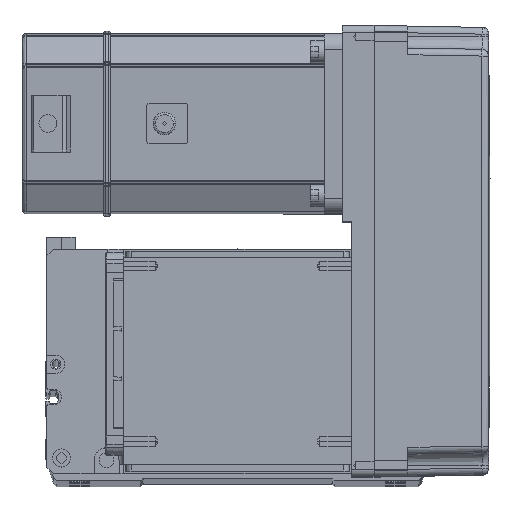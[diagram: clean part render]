
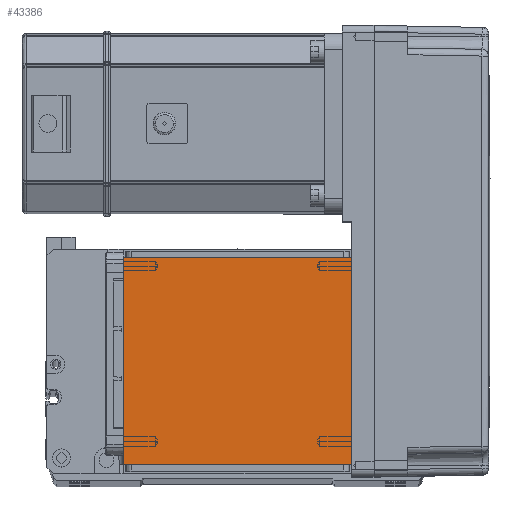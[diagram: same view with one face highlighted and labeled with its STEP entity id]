
A CAD part, top view. The second image highlights one B-rep face of the part: STEP entity #43386.
In plain terms, the highlighted planar face has unit normal (0, 0, 1).
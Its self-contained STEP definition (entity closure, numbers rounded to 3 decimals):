
#1407 = LINE ( 'NONE', #17346, #49479 ) ;
#3900 = VECTOR ( 'NONE', #59521, 1000. ) ;
#5833 = CARTESIAN_POINT ( 'NONE',  ( 50.5, 122., 115. ) ) ;
#7204 = CARTESIAN_POINT ( 'NONE',  ( -70.004, 111.5, 115. ) ) ;
#7520 = AXIS2_PLACEMENT_3D ( 'NONE', #58973, #35153, #25771 ) ;
#7862 = PLANE ( 'NONE',  #7520 ) ;
#10209 = ORIENTED_EDGE ( 'NONE', *, *, #46955, .T. ) ;
#11987 = LINE ( 'NONE', #25721, #41909 ) ;
#12341 = CARTESIAN_POINT ( 'NONE',  ( 50.5, 111.5, 115. ) ) ;
#12814 = CARTESIAN_POINT ( 'NONE',  ( -50.5, 20., 115. ) ) ;
#14434 = VERTEX_POINT ( 'NONE', #12341 ) ;
#14782 = CARTESIAN_POINT ( 'NONE',  ( 50.5, 20., 115. ) ) ;
#14920 = VERTEX_POINT ( 'NONE', #59060 ) ;
#17346 = CARTESIAN_POINT ( 'NONE',  ( -70.004, 20., 115. ) ) ;
#17726 = EDGE_CURVE ( 'NONE', #14920, #14434, #38847, .T. ) ;
#19650 = DIRECTION ( 'NONE',  ( 0., 1., 0. ) ) ;
#21086 = VECTOR ( 'NONE', #19650, 1000. ) ;
#21928 = VERTEX_POINT ( 'NONE', #14782 ) ;
#22002 = DIRECTION ( 'NONE',  ( -1., 0., 0. ) ) ;
#24715 = LINE ( 'NONE', #5833, #21086 ) ;
#25721 = CARTESIAN_POINT ( 'NONE',  ( -50.5, 122., 115. ) ) ;
#25771 = DIRECTION ( 'NONE',  ( 1., 0., 0. ) ) ;
#25913 = DIRECTION ( 'NONE',  ( 0., -1., 0. ) ) ;
#27228 = VERTEX_POINT ( 'NONE', #12814 ) ;
#35011 = EDGE_LOOP ( 'NONE', ( #49099, #57063, #53912, #10209 ) ) ;
#35153 = DIRECTION ( 'NONE',  ( 0., 0., 1. ) ) ;
#35940 = EDGE_CURVE ( 'NONE', #21928, #27228, #1407, .T. ) ;
#38454 = EDGE_CURVE ( 'NONE', #14920, #27228, #11987, .T. ) ;
#38847 = LINE ( 'NONE', #7204, #3900 ) ;
#41909 = VECTOR ( 'NONE', #25913, 1000. ) ;
#43386 = ADVANCED_FACE ( 'NONE', ( #55783 ), #7862, .T. ) ;
#46955 = EDGE_CURVE ( 'NONE', #21928, #14434, #24715, .T. ) ;
#49099 = ORIENTED_EDGE ( 'NONE', *, *, #17726, .F. ) ;
#49479 = VECTOR ( 'NONE', #22002, 1000. ) ;
#53912 = ORIENTED_EDGE ( 'NONE', *, *, #35940, .F. ) ;
#55783 = FACE_OUTER_BOUND ( 'NONE', #35011, .T. ) ;
#57063 = ORIENTED_EDGE ( 'NONE', *, *, #38454, .T. ) ;
#58973 = CARTESIAN_POINT ( 'NONE',  ( 0., 0., 115. ) ) ;
#59060 = CARTESIAN_POINT ( 'NONE',  ( -50.5, 111.5, 115. ) ) ;
#59521 = DIRECTION ( 'NONE',  ( 1., 0., 0. ) ) ;
